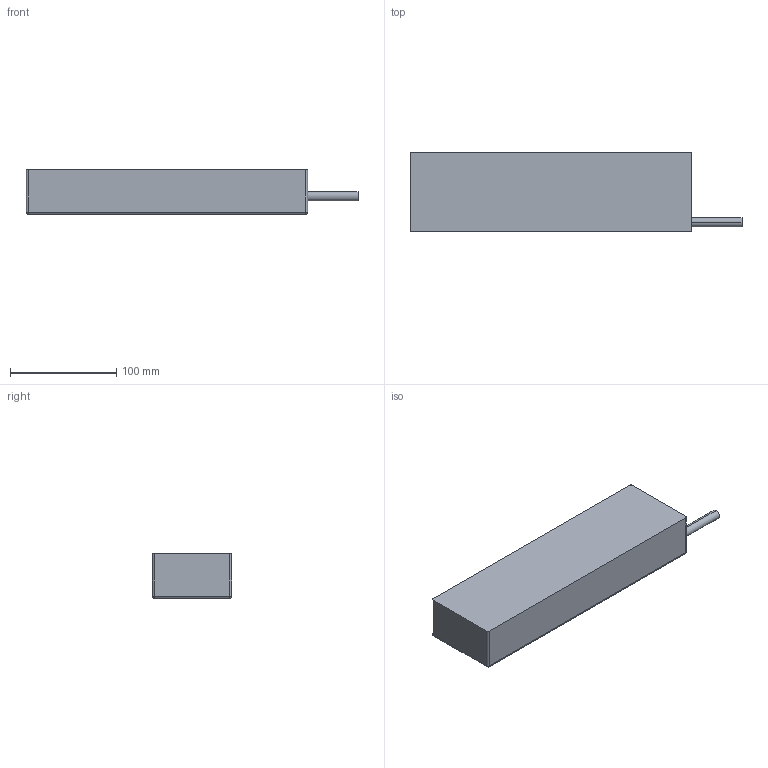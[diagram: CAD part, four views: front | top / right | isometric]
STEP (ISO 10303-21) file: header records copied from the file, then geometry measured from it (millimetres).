
FILE_DESCRIPTION (( 'STEP AP214' ), '1' );
FILE_NAME ('FLS-75-265¶¯×Ó.STEP', '2021-04-28T08:09:46', ( '' ), ( '' ), 'SwSTEP 2.0', 'SolidWorks 2016', '' );
FILE_SCHEMA (( 'AUTOMOTIVE_DESIGN' ));
Length unit declared in the file: millimetre
Products named in the file (1): FLS-75-265雄赽
Bounding box: 312.5 x 75 x 42 mm (x, y, z)
Volume: 833565 mm3; surface area: 71892.5 mm2
Topology: 1 solids, 1 shells, 101 faces, 246 edges, 124 vertices
Faces by surface type: cylinder 50, cone 40, plane 7, sphere 4
Entity records: 3094 total; most frequent: DIRECTION 506, CARTESIAN_POINT 428, ORIENTED_EDGE 404, EDGE_CURVE 202, AXIS2_PLACEMENT_3D 202, VERTEX_POINT 124, EDGE_LOOP 122, LINE 102
